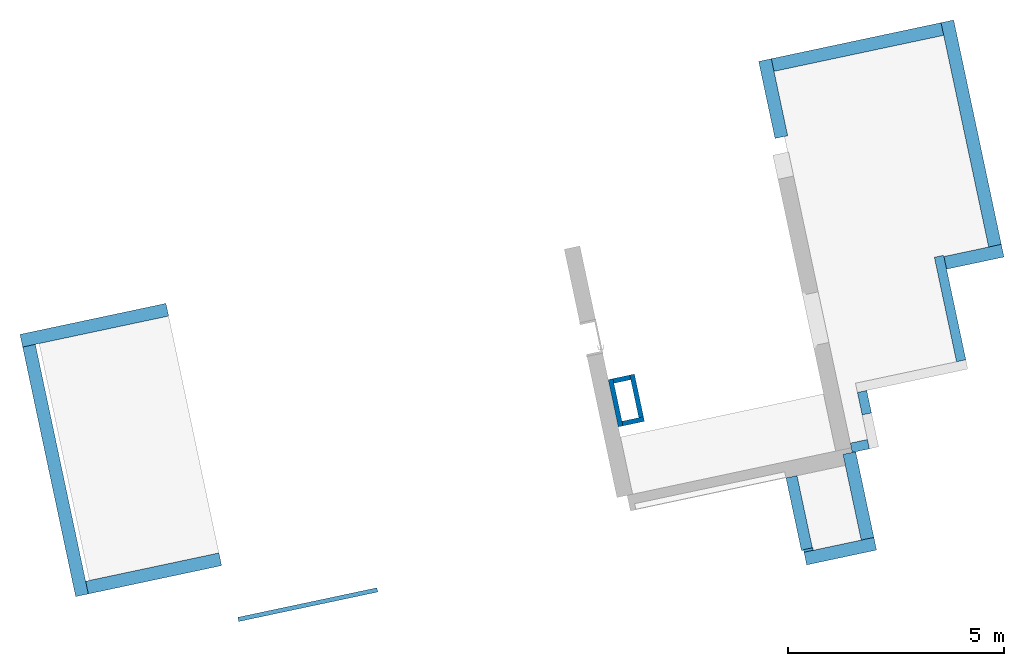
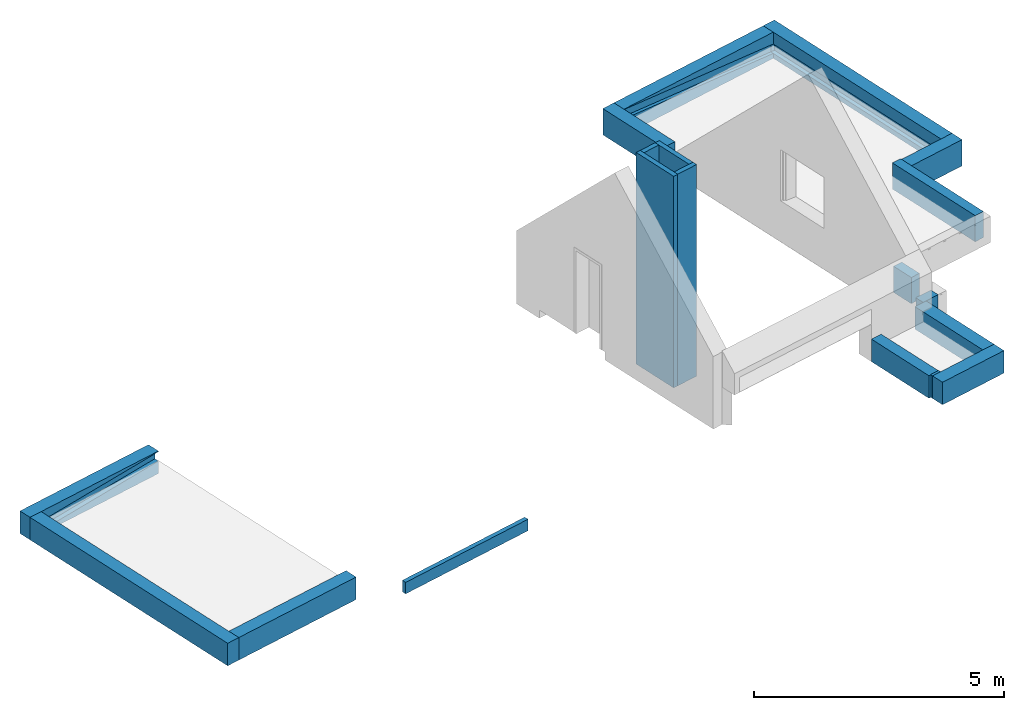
# One storey, part 1 of 5: 18 walls, 1 beam, 1 opening.
"""IFC2X3 building model written with IfcOpenShell, lengths in centimetres."""

import ifcopenshell
import ifcopenshell.guid

model = None  # the IFC model being written
_history = None  # IfcOwnerHistory: only IFC2X3 demands one
_inside = {}  # id of a spatial element -> (the spatial element, [elements in it])
_under = {}  # id of a project, library or spatial element -> (it, [spatial elements below it])
_declared = {}  # id of a project -> (the project, [libraries it declares])
_typed = {}  # id of a type object -> (the type object, [elements of that type])
_made_of = {}  # id of a material, layer set ... -> (it, [elements and type objects made of it])


def new_model(schema):
    """Start an empty IFC model of exactly this schema.

    Asked for "IFC4X3", IfcOpenShell would pick the latest addendum, in which some entities
    have other attributes; the version numbers below select the first issue.
    IFC2X3 requires an IfcOwnerHistory on every rooted entity: one is made here for all.
    """
    global model, _history
    if schema == "IFC4X3":
        model = ifcopenshell.file(schema_version=(4, 3, 0, 0))
    else:
        model = ifcopenshell.file(schema=schema)
    _inside.clear()
    _under.clear()
    _declared.clear()
    _typed.clear()
    _made_of.clear()
    _history = None
    if model.schema == "IFC2X3":
        org = make("IfcOrganization", Name="unknown")
        user = make(
            "IfcPersonAndOrganization",
            ThePerson=make("IfcPerson", FamilyName="unknown"),
            TheOrganization=org,
        )
        app = make(
            "IfcApplication",
            ApplicationDeveloper=org,
            Version="unknown",
            ApplicationFullName="unknown",
            ApplicationIdentifier="unknown",
        )
        _history = make(
            "IfcOwnerHistory",
            OwningUser=user,
            OwningApplication=app,
            ChangeAction="ADDED",
            CreationDate=0,
        )
    return model


def make(cls, **values):
    """One entity of the class cls with the attributes given. An attribute that is None is left unset."""
    return model.create_entity(
        cls, **{name: value for name, value in values.items() if value is not None}
    )


def entity(cls, *values):
    """Any entity or typed value of the class cls, its attributes in the order of the schema. None: left unset."""
    e = model.create_entity(cls)
    for i, value in enumerate(values):
        if value is not None:
            e[i] = value
    return e


def rooted(cls, **values):
    """An entity with a GlobalId (a new one), such as an element, a storey or a relation."""
    return make(cls, GlobalId=ifcopenshell.guid.new(), OwnerHistory=_history, **values)


def si_unit(unit_type, name, prefix=None):
    """IfcSIUnit, for example si_unit("LENGTHUNIT", "METRE", prefix="MILLI")."""
    return make("IfcSIUnit", UnitType=unit_type, Prefix=prefix, Name=name)


def converted_unit(unit_type, name, factor, base, dimensions=None, offset=None):
    """IfcConversionBasedUnit, such as the inch: factor (a typed value) times the base unit."""
    return make(
        "IfcConversionBasedUnit"
        if offset is None
        else "IfcConversionBasedUnitWithOffset",
        ConversionOffset=offset,
        Dimensions=None
        if dimensions is None
        else entity("IfcDimensionalExponents", *dimensions),
        UnitType=unit_type,
        Name=name,
        ConversionFactor=make(
            "IfcMeasureWithUnit", ValueComponent=factor, UnitComponent=base
        ),
    )


def derived_unit(unit_type, elements):
    """IfcDerivedUnit: a product of units, each with its exponent."""
    return make(
        "IfcDerivedUnit",
        Elements=[
            make("IfcDerivedUnitElement", Unit=unit, Exponent=power)
            for unit, power in elements
        ],
        UnitType=unit_type,
    )


def assignment(units):
    """IfcUnitAssignment: the units of a project."""
    return None if units is None else make("IfcUnitAssignment", Units=units)


def point(xyz):
    """IfcCartesianPoint."""
    return None if xyz is None else make("IfcCartesianPoint", Coordinates=xyz)


def direction(xyz):
    """IfcDirection."""
    return None if xyz is None else make("IfcDirection", DirectionRatios=xyz)


def frame(location, z_axis=None, x_axis=None):
    """IfcAxis2Placement3D, a coordinate frame: its origin and axes. An axis left out is left unset."""
    return make(
        "IfcAxis2Placement3D",
        Location=point(location),
        Axis=direction(z_axis),
        RefDirection=direction(x_axis),
    )


def frame_2d(location, x_axis=None):
    """IfcAxis2Placement2D, a coordinate frame in the plane: its origin and x axis."""
    return make(
        "IfcAxis2Placement2D", Location=point(location), RefDirection=direction(x_axis)
    )


def origin():
    """The frame at (0, 0, 0) with its axes left unset."""
    return frame((0.0, 0.0, 0.0))


def place(relative_to, where):
    """IfcLocalPlacement: puts the frame where relative to a parent placement (None: the world)."""
    return make(
        "IfcLocalPlacement", PlacementRelTo=relative_to, RelativePlacement=where
    )


def context(
    kind, dimensions, precision=None, world=None, true_north=None, identifier=None
):
    """IfcGeometricRepresentationContext, for example the 3D "Model" context."""
    return make(
        "IfcGeometricRepresentationContext",
        ContextIdentifier=identifier,
        ContextType=kind,
        CoordinateSpaceDimension=dimensions,
        Precision=precision,
        WorldCoordinateSystem=world,
        TrueNorth=true_north,
    )


def subcontext(parent, identifier, kind, view, scale=None):
    """IfcGeometricRepresentationSubContext, for example "Body" below "Model"."""
    return make(
        "IfcGeometricRepresentationSubContext",
        ContextIdentifier=identifier,
        ContextType=kind,
        ParentContext=parent,
        TargetScale=scale,
        TargetView=view,
    )


def project(units=None, contexts=None):
    """IfcProject with its units and contexts."""
    return rooted(
        "IfcProject",
        Name="project",
        RepresentationContexts=contexts,
        UnitsInContext=assignment(units),
    )


def spatial(cls, under=None, at=None, **own):
    """A site, building, storey or space (cls), placed at a placement, below another one or the project."""
    s = rooted(cls, ObjectPlacement=at, **own)
    if under is not None:
        _under.setdefault(under.id(), (under, []))[1].append(s)
    return s


def polyline(points):
    """IfcPolyline through the points."""
    return make("IfcPolyline", Points=[point(p) for p in points])


def profile(cls, at=None, kind="AREA", **sizes):
    """A parametric profile (cls). Its sizes go by their IFC names, for example OverallWidth=200.0."""
    return make(cls, ProfileType=kind, Position=at, **sizes)


def rectangle(**sizes):
    """IfcRectangleProfileDef."""
    return profile("IfcRectangleProfileDef", **sizes)


def extrude(swept, where, along, depth):
    """IfcExtrudedAreaSolid: the profile swept, set in the frame where, extruded along a direction by depth."""
    return make(
        "IfcExtrudedAreaSolid",
        SweptArea=swept,
        Position=where,
        ExtrudedDirection=direction(along),
        Depth=depth,
    )


def clip(a, b, op="DIFFERENCE"):
    """IfcBooleanClippingResult: the solid a cut by the half space b."""
    return make(
        "IfcBooleanClippingResult", Operator=op, FirstOperand=a, SecondOperand=b
    )


def bounded_halfspace(plane, agree, where, boundary):
    """IfcPolygonalBoundedHalfSpace: a half space limited to a polygon's prism."""
    return make(
        "IfcPolygonalBoundedHalfSpace",
        BaseSurface=make("IfcPlane", Position=plane),
        AgreementFlag=agree,
        Position=where,
        PolygonalBoundary=boundary,
    )


def faces_of(points, faces, orient=None, outer=None):
    """IfcFace entities. A face is a list of loops; a loop is a list of indices into points, from 0.

    orient and outer hold one flag for each loop. By default every Orientation is true, the
    first loop of a face is its IfcFaceOuterBound and the others are IfcFaceBound.
    """
    made = []
    for i, loops in enumerate(faces):
        bounds = []
        for j, loop in enumerate(loops):
            is_outer = j == 0 if outer is None else outer[i][j]
            bounds.append(
                make(
                    "IfcFaceOuterBound" if is_outer else "IfcFaceBound",
                    Bound=make("IfcPolyLoop", Polygon=[points[k] for k in loop]),
                    Orientation=True if orient is None else orient[i][j],
                )
            )
        made.append(make("IfcFace", Bounds=bounds))
    return made


def faceted_brep(points, faces, orient=None, outer=None, voids=None):
    """IfcFacetedBrep: a solid bounded by flat faces; with voids (closed shells), ...WithVoids."""
    shared = [point(p) for p in points]
    hull = make("IfcClosedShell", CfsFaces=faces_of(shared, faces, orient, outer))
    if voids is None:
        return make("IfcFacetedBrep", Outer=hull)
    return make(
        "IfcFacetedBrepWithVoids",
        Outer=hull,
        Voids=[
            make(cls, CfsFaces=faces_of(shared, fs, o, b)) for cls, fs, o, b in voids
        ],
    )


def shape(context_of_items, identifier, shape_type, items):
    """IfcShapeRepresentation: the items that make up one representation, for example the "Body"."""
    return make(
        "IfcShapeRepresentation",
        ContextOfItems=context_of_items,
        RepresentationIdentifier=identifier,
        RepresentationType=shape_type,
        Items=items,
    )


def material(Name=None, Category=None):
    """IfcMaterial."""
    return make("IfcMaterial", Name=Name, Category=Category)


def layer(
    of_material, thickness, ventilated=None, Name=None, Category=None, Priority=None
):
    """IfcMaterialLayer: one layer of a wall or slab, of a material (None: an air gap)."""
    return make(
        "IfcMaterialLayer",
        Material=of_material,
        LayerThickness=thickness,
        IsVentilated=ventilated,
        Name=Name,
        Category=Category,
        Priority=Priority,
    )


def layer_set(layers, Name=None):
    """IfcMaterialLayerSet."""
    return make("IfcMaterialLayerSet", MaterialLayers=layers, LayerSetName=Name)


def layer_usage(for_layer_set, set_direction, sense, offset, extent=None):
    """IfcMaterialLayerSetUsage: how a layer set lies in its element."""
    return make(
        "IfcMaterialLayerSetUsage",
        ForLayerSet=for_layer_set,
        LayerSetDirection=set_direction,
        DirectionSense=sense,
        OffsetFromReferenceLine=offset,
        ReferenceExtent=extent,
    )


def made_of(thing, what):
    """Note that an element or type object is made of a material, layer set ...; save() writes the relation."""
    if what is not None:
        _made_of.setdefault(what.id(), (what, []))[1].append(thing)
    return thing


def type_object(cls, material=None, **own):
    """A type object (cls), such as IfcWallType, which elements share."""
    return made_of(rooted(cls, **own), material)


def element(
    cls,
    number,
    at=None,
    inside=None,
    cuts=None,
    type_object=None,
    material=None,
    context=None,
    identifier="Body",
    shape_type=None,
    held_by="IfcProductDefinitionShape",
    body=None,
    shapes=None,
    **own,
):
    """One element of the class cls, such as IfcWall. Its Tag is "e" and its number.

    at: its placement. inside: the storey or other place that contains it. cuts: it is an
    opening in that element (IfcRelVoidsElement). A single representation is given by context,
    identifier, shape_type and body (its items); several are given by shapes. held_by: the class
    of the entity that holds the representations. save() writes the other relations.
    """
    e = rooted(cls, Tag="e%d" % number, ObjectPlacement=at, **own)
    if body is not None:
        shapes = [shape(context, identifier, shape_type, body)]
    if shapes is not None:
        e.Representation = make(held_by, Representations=shapes)
    if inside is not None:
        _inside.setdefault(inside.id(), (inside, []))[1].append(e)
    if cuts is not None:
        rooted(
            "IfcRelVoidsElement", RelatingBuildingElement=cuts, RelatedOpeningElement=e
        )
    if type_object is not None:
        _typed.setdefault(type_object.id(), (type_object, []))[1].append(e)
    return made_of(e, material)


def aggregate(whole, parts):
    """IfcRelAggregates: a whole, such as a stair, and the parts it consists of."""
    return rooted("IfcRelAggregates", RelatingObject=whole, RelatedObjects=parts)


def save(model, path):
    """Write the relations noted so far, then the file.

    IfcRelAggregates (storeys below a building ...), IfcRelContainedInSpatialStructure (elements
    in a storey), IfcRelDefinesByType, IfcRelAssociatesMaterial and IfcRelDeclares: one each for
    every whole, place, type object, material and project.
    """
    for whole, parts in _under.values():
        aggregate(whole, parts)
    for where, things in _inside.values():
        rooted(
            "IfcRelContainedInSpatialStructure",
            RelatedElements=things,
            RelatingStructure=where,
        )
    for kind, things in _typed.values():
        rooted("IfcRelDefinesByType", RelatedObjects=things, RelatingType=kind)
    for what, things in _made_of.values():
        rooted("IfcRelAssociatesMaterial", RelatedObjects=things, RelatingMaterial=what)
    for by, libraries in _declared.values():
        rooted("IfcRelDeclares", RelatingContext=by, RelatedDefinitions=libraries)
    model.write(path)


model = new_model("IFC2X3")

# Units and contexts
model_context = context("Model", 3, precision=0.001, world=origin(), true_north=direction((6.12303176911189e-17, 1.0)))
body_context = subcontext(model_context, "Body", "Model", "MODEL_VIEW")
ifc_project = project(units=[si_unit("LENGTHUNIT", "METRE", prefix="CENTI"), si_unit("AREAUNIT", "SQUARE_METRE"), si_unit("VOLUMEUNIT", "CUBIC_METRE"), converted_unit("PLANEANGLEUNIT", "DEGREE", entity("IfcRatioMeasure", 0.0174532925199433), si_unit("PLANEANGLEUNIT", "RADIAN"), dimensions=[0, 0, 0, 0, 0, 0, 0]), si_unit("MASSUNIT", "GRAM", prefix="KILO"), derived_unit("MASSDENSITYUNIT", [(si_unit("MASSUNIT", "GRAM", prefix="KILO"), 1), (si_unit("LENGTHUNIT", "METRE"), -3)]), derived_unit("IONCONCENTRATIONUNIT", [(si_unit("MASSUNIT", "GRAM", prefix="KILO"), 1), (si_unit("LENGTHUNIT", "METRE"), -3)]), derived_unit("MOMENTOFINERTIAUNIT", [(si_unit("LENGTHUNIT", "METRE"), 4)]), si_unit("TIMEUNIT", "SECOND"), si_unit("FREQUENCYUNIT", "HERTZ"), si_unit("THERMODYNAMICTEMPERATUREUNIT", "DEGREE_CELSIUS"), derived_unit("THERMALTRANSMITTANCEUNIT", [(si_unit("MASSUNIT", "GRAM", prefix="KILO"), 1), (si_unit("THERMODYNAMICTEMPERATUREUNIT", "KELVIN"), -1), (si_unit("TIMEUNIT", "SECOND"), -3)]), derived_unit("THERMALCONDUCTANCEUNIT", [(si_unit("MASSUNIT", "GRAM", prefix="KILO"), 1), (si_unit("THERMODYNAMICTEMPERATUREUNIT", "KELVIN"), -1), (si_unit("TIMEUNIT", "SECOND"), -3), (si_unit("LENGTHUNIT", "METRE"), 1)]), derived_unit("VOLUMETRICFLOWRATEUNIT", [(si_unit("LENGTHUNIT", "METRE"), 3), (si_unit("TIMEUNIT", "SECOND"), -1)]), derived_unit("MASSFLOWRATEUNIT", [(si_unit("MASSUNIT", "GRAM", prefix="KILO"), 1), (si_unit("TIMEUNIT", "SECOND"), -1)]), derived_unit("ROTATIONALFREQUENCYUNIT", [(si_unit("TIMEUNIT", "SECOND"), -1)]), si_unit("ELECTRICCURRENTUNIT", "AMPERE"), si_unit("ELECTRICVOLTAGEUNIT", "VOLT"), si_unit("POWERUNIT", "WATT"), si_unit("FORCEUNIT", "NEWTON", prefix="KILO"), si_unit("ILLUMINANCEUNIT", "LUX"), si_unit("LUMINOUSFLUXUNIT", "LUMEN"), si_unit("LUMINOUSINTENSITYUNIT", "CANDELA"), derived_unit("USERDEFINED", [(si_unit("MASSUNIT", "GRAM", prefix="KILO"), -1), (si_unit("LENGTHUNIT", "METRE"), -2), (si_unit("TIMEUNIT", "SECOND"), 3), (si_unit("LUMINOUSFLUXUNIT", "LUMEN"), 1)]), derived_unit("USERDEFINED", [(si_unit("MASSUNIT", "GRAM", prefix="KILO"), 1), (si_unit("TIMEUNIT", "SECOND"), -3), (si_unit("LENGTHUNIT", "METRE"), 3), (si_unit("ELECTRICCURRENTUNIT", "AMPERE"), -2)]), derived_unit("SOUNDPOWERUNIT", [(si_unit("MASSUNIT", "GRAM", prefix="KILO"), 1), (si_unit("TIMEUNIT", "SECOND"), -3), (si_unit("LENGTHUNIT", "METRE"), 2)]), derived_unit("SOUNDPRESSUREUNIT", [(si_unit("MASSUNIT", "GRAM", prefix="KILO"), 1), (si_unit("LENGTHUNIT", "METRE"), -1), (si_unit("TIMEUNIT", "SECOND"), -2)]), derived_unit("LINEARVELOCITYUNIT", [(si_unit("LENGTHUNIT", "METRE"), 1), (si_unit("TIMEUNIT", "SECOND"), -1)]), si_unit("PRESSUREUNIT", "PASCAL"), derived_unit("USERDEFINED", [(si_unit("MASSUNIT", "GRAM", prefix="KILO"), 1), (si_unit("LENGTHUNIT", "METRE"), -2), (si_unit("TIMEUNIT", "SECOND"), -2)]), derived_unit("LINEARFORCEUNIT", [(si_unit("MASSUNIT", "GRAM", prefix="KILO"), 1), (si_unit("TIMEUNIT", "SECOND"), -2)]), derived_unit("PLANARFORCEUNIT", [(si_unit("MASSUNIT", "GRAM", prefix="KILO"), 1), (si_unit("LENGTHUNIT", "METRE"), -1), (si_unit("TIMEUNIT", "SECOND"), -2)]), derived_unit("SPECIFICHEATCAPACITYUNIT", [(si_unit("THERMODYNAMICTEMPERATUREUNIT", "KELVIN"), -1), (si_unit("LENGTHUNIT", "METRE"), 2), (si_unit("TIMEUNIT", "SECOND"), -2)]), derived_unit("HEATINGVALUEUNIT", [(si_unit("LENGTHUNIT", "METRE"), 2), (si_unit("TIMEUNIT", "SECOND"), -2)]), derived_unit("VAPORPERMEABILITYUNIT", [(si_unit("LENGTHUNIT", "METRE"), -1), (si_unit("TIMEUNIT", "SECOND"), 1)]), derived_unit("DYNAMICVISCOSITYUNIT", [(si_unit("MASSUNIT", "GRAM", prefix="KILO"), 1), (si_unit("TIMEUNIT", "SECOND"), -1), (si_unit("LENGTHUNIT", "METRE"), -1)]), derived_unit("THERMALEXPANSIONCOEFFICIENTUNIT", [(si_unit("THERMODYNAMICTEMPERATUREUNIT", "KELVIN"), -1)]), derived_unit("MODULUSOFELASTICITYUNIT", [(si_unit("MASSUNIT", "GRAM", prefix="KILO"), 1), (si_unit("LENGTHUNIT", "METRE"), -1), (si_unit("TIMEUNIT", "SECOND"), -2)]), derived_unit("ISOTHERMALMOISTURECAPACITYUNIT", [(si_unit("LENGTHUNIT", "METRE"), 3), (si_unit("MASSUNIT", "GRAM", prefix="KILO"), -1)]), derived_unit("MOISTUREDIFFUSIVITYUNIT", [(si_unit("TIMEUNIT", "SECOND"), -1), (si_unit("LENGTHUNIT", "METRE"), 2)])], contexts=[model_context])

# Site, building, storey
site_placement = place(None, frame((14083.8920177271, -6853.25409548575, 6900.0), z_axis=(0.0, 0.0, 1.0), x_axis=(0.978188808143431, 0.207717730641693, 0.0)))
site = spatial("IfcSite", under=ifc_project, at=site_placement, Name="Surface", CompositionType="ELEMENT")
building_placement = place(site_placement, origin())
building = spatial("IfcBuilding", under=site, at=building_placement, CompositionType="ELEMENT")
storey_placement = place(building_placement, frame((0.0, 0.0, 269.0)))
storey = spatial("IfcBuildingStorey", under=building, at=storey_placement, Name="***R+1 (SD)***", CompositionType="ELEMENT", Elevation=269.0)

# Beam
ifc_material_1 = material(Name="Bois - Bois de construction de dimensions courantes")
beam_type = type_object("IfcBeamType", Name="Poutre - Bois de construction de dimensions courantes:100x280", PredefinedType="NOTDEFINED")
beam_placement = place(storey_placement, frame((-7443.95514329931, 14707.6724778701, 106.500000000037), z_axis=(0.0, 0.0, 1.0), x_axis=(-1.0, 0.0, 0.0)))
element("IfcBeam", 1, at=beam_placement, inside=storey, type_object=beam_type, material=ifc_material_1, Name="Poutre - Bois de construction de dimensions courantes:100x280", ObjectType="Poutre - Bois de construction de dimensions courantes:100x280", context=body_context, shape_type="SweptSolid", body=[
    extrude(rectangle(XDim=28.0, YDim=10.0000000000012, at=frame_2d((5.41788836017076e-14, 0.0), x_axis=(1.0, 0.0))), frame((-48.3578643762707, 0.0, -14.0), z_axis=(1.0, 0.0, 0.0), x_axis=(0.0, 0.0, -1.0)), (0.0, 0.0, 1.0), 329.557864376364),
])

# Walls
ifc_material_2 = material(Name="__ ENDUIT_Blanc")
ifc_layer_1 = layer(ifc_material_2, 1.0)
ifc_material_3 = material(Name="__ BRIQUE______________________TEST")
ifc_layer_2 = layer(ifc_material_3, 10.0)
ifc_layer_set_1 = layer_set([ifc_layer_1, ifc_layer_2], Name="Mur de base:*BRIQUE 10 + Enduit")
ifc_layer_usage_1 = layer_usage(ifc_layer_set_1, "AXIS2", "POSITIVE", -5.5)
wall_type_1 = type_object("IfcWallType", Name="Mur de base:*BRIQUE 10 + Enduit", PredefinedType="STANDARD", material=ifc_layer_set_1)
wall_1_placement = place(storey_placement, frame((-6765.4551432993, 15073.2093470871, 0.0), z_axis=(0.0, 0.0, 1.0), x_axis=(0.0, -1.0, 0.0)))
element("IfcWallStandardCase", 2, at=wall_1_placement, inside=storey, type_object=wall_type_1, material=ifc_layer_usage_1, Name="Mur de base:*BRIQUE 10 + Enduit", ObjectType="Mur de base:*BRIQUE 10 + Enduit", context=body_context, shape_type="SweptSolid", body=[
    extrude(rectangle(XDim=112.036869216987, YDim=10.9999999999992, at=frame_2d((56.0184346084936, 0.0), x_axis=(-1.0, 0.0))), origin(), (0.0, 0.0, 1.0), 517.000000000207),
])
wall_2_placement = place(storey_placement, frame((-6759.9551432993, 14966.6724778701, 0.0)))
element("IfcWallStandardCase", 3, at=wall_2_placement, inside=storey, type_object=wall_type_1, material=ifc_layer_usage_1, Name="Mur de base:*BRIQUE 10 + Enduit", ObjectType="Mur de base:*BRIQUE 10 + Enduit", context=body_context, shape_type="SweptSolid", body=[
    extrude(rectangle(XDim=50.9999999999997, YDim=11.000000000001, at=frame_2d((25.4999999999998, 0.0), x_axis=(-1.0, 0.0))), origin(), (0.0, 0.0, 1.0), 517.000000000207),
])
wall_3_placement = place(storey_placement, frame((-6714.4551432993, 14972.1724778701, 0.0), z_axis=(0.0, 0.0, 1.0), x_axis=(0.0, 1.0, 0.0)))
element("IfcWallStandardCase", 4, at=wall_3_placement, inside=storey, type_object=wall_type_1, material=ifc_layer_usage_1, Name="Mur de base:*BRIQUE 10 + Enduit", ObjectType="Mur de base:*BRIQUE 10 + Enduit", context=body_context, shape_type="SweptSolid", body=[
    extrude(rectangle(XDim=101.036869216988, YDim=10.9999999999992, at=frame_2d((50.5184346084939, 0.0), x_axis=(-1.0, 0.0))), origin(), (0.0, 0.0, 1.0), 517.000000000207),
])
wall_4_placement = place(storey_placement, frame((-6719.9551432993, 15067.7093470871, 0.0), z_axis=(0.0, 0.0, 1.0), x_axis=(-1.0, 0.0, 0.0)))
element("IfcWallStandardCase", 5, at=wall_4_placement, inside=storey, type_object=wall_type_1, material=ifc_layer_usage_1, Name="Mur de base:*BRIQUE 10 + Enduit", ObjectType="Mur de base:*BRIQUE 10 + Enduit", context=body_context, shape_type="SweptSolid", body=[
    extrude(rectangle(XDim=39.9999999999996, YDim=11.000000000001, at=frame_2d((19.9999999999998, 0.0), x_axis=(-1.0, 0.0))), origin(), (0.0, 0.0, 1.0), 517.000000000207),
])
ifc_material_4 = material(Name="__ PIERRE______________________TEST")
ifc_layer_3 = layer(ifc_material_4, 10.0)
ifc_material_5 = material(Name="Béton, précoulé")
ifc_layer_4 = layer(ifc_material_5, 20.0)
ifc_layer_set_2 = layer_set([ifc_layer_3, ifc_layer_4], Name="Mur de base:*BETON 22 (20 + EXT 2) (parement) + couronnement zinc")
wall_type_2 = type_object("IfcWallType", Name="Mur de base:*BETON 22 (20 + EXT 2) (parement) + couronnement zinc", PredefinedType="STANDARD", material=ifc_layer_set_2)
wall_5_placement = place(storey_placement, frame((-7736.9551432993, 15443.9391445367, 0.0), z_axis=(0.0, 0.0, 1.0), x_axis=(-1.0, 0.0, 0.0)))
element("IfcWall", 6, at=wall_5_placement, inside=storey, type_object=wall_type_2, Name="Mur de base:*BETON 22 (20 + EXT 2) (parement) + couronnement zinc", ObjectType="Mur de base:*BETON 22 (20 + EXT 2) (parement) + couronnement zinc", context=body_context, shape_type="Brep", body=[
    faceted_brep([(0.0, -15.0, 0.0), (345.800000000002, -15.0, 0.0), (345.800000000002, -15.0, 55.0), (0.0, -15.0, 55.0), (345.800000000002, 15.0, 0.0), (315.800000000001, 15.0, 0.0), (0.0, 15.0, 0.0), (0.0, 15.0, 30.4113676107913), (315.800000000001, 15.0, 8.32848039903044), (318.0, 15.0, 8.17464141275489), (318.0, 15.0, 31.2308050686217), (315.800000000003, 15.0, 31.3846440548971), (0.0, 15.0, 53.4675312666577), (0.0, 15.0, 55.0), (315.800000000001, 15.0, 55.0), (345.800000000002, 15.0, 55.0), (0.0, 4.0, 30.411367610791), (318.0, 4.0, 8.17464141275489), (318.0, 4.0, 31.2308050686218), (0.0, 4.0, 53.4675312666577)], [[[0, 1, 2, 3]], [[4, 5, 6, 7, 8, 9, 10, 11, 12, 13, 14, 15]], [[1, 0, 6, 5, 4]], [[3, 2, 15, 14, 13]], [[16, 17, 9, 8, 7]], [[18, 19, 12, 11, 10]], [[17, 16, 19, 18]], [[6, 0, 3, 13, 12, 19, 16, 7]], [[2, 1, 4, 15]], [[17, 18, 10, 9]]]),
])
wall_6_placement = place(storey_placement, frame((-8067.7551432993, 15428.9391445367, 0.0), z_axis=(0.0, 0.0, 1.0), x_axis=(0.0, -1.0, 0.0)))
element("IfcWall", 7, at=wall_6_placement, inside=storey, type_object=wall_type_2, Name="Mur de base:*BETON 22 (20 + EXT 2) (parement) + couronnement zinc", ObjectType="Mur de base:*BETON 22 (20 + EXT 2) (parement) + couronnement zinc", context=body_context, shape_type="Brep", body=[
    faceted_brep([(0.0, -15.0, 0.0), (591.266666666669, -15.0, 0.0), (591.266666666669, -15.0, 55.0), (0.0, -15.0, 55.0), (591.266666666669, 15.0, 0.0), (561.266666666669, 15.0, 0.0), (0.0, 15.0, 0.0), (0.0, 15.0, 8.32848039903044), (561.266666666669, 15.0, 8.32848039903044), (572.266666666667, 15.0, 8.32848039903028), (572.266666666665, 15.0, 31.3846440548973), (561.266666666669, 15.0, 31.3846440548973), (0.0, 15.0, 31.3846440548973), (0.0, 15.0, 55.0), (561.266666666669, 15.0, 55.0), (591.266666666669, 15.0, 55.0), (572.266666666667, 12.800000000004, 8.17464141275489), (0.0, 12.800000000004, 8.17464141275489), (572.266666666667, 12.800000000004, 31.2308050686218), (0.0, 12.8000000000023, 31.2308050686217)], [[[0, 1, 2, 3]], [[4, 5, 6, 7, 8, 9, 10, 11, 12, 13, 14, 15]], [[1, 0, 6, 5, 4]], [[3, 2, 15, 14, 13]], [[16, 9, 8, 7, 17]], [[10, 18, 19, 12, 11]], [[18, 16, 17, 19]], [[0, 3, 13, 12, 19, 17, 7, 6]], [[16, 18, 10, 9]], [[2, 1, 4, 15]]]),
])
ifc_layer_usage_2 = layer_usage(ifc_layer_set_2, "AXIS2", "POSITIVE", -15.0)
wall_7_placement = place(storey_placement, frame((-8052.7551432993, 14852.6724778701, 0.0)))
element("IfcWallStandardCase", 8, at=wall_7_placement, inside=storey, type_object=wall_type_2, material=ifc_layer_usage_2, Name="Mur de base:*BETON 22 (20 + EXT 2) (parement) + couronnement zinc", ObjectType="Mur de base:*BETON 22 (20 + EXT 2) (parement) + couronnement zinc", context=body_context, shape_type="Clipping", body=[
    clip(extrude(rectangle(XDim=315.800000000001, YDim=30.0000000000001, at=frame_2d((157.9, 0.0), x_axis=(-1.0, 0.0))), origin(), (0.0, 0.0, 1.0), 55.0000000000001), bounded_halfspace(frame((315.800000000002, 4.0, 30.411367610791), z_axis=(0.0, -1.0, 0.0), x_axis=(1.0, 0.0, 0.0)), True, frame((315.800000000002, 4.0, 30.411367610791), z_axis=(0.0, -1.0, 0.0), x_axis=(1.0, 0.0, 0.0)), polyline([(0.0, 0.0), (0.0, 23.0561636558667), (-315.8, 0.973276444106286), (-315.8, -22.0828872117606), (0.0, 0.0)]))),
])
ifc_layer_usage_3 = layer_usage(ifc_layer_set_2, "AXIS2", "NEGATIVE", 15.0)
wall_8_placement = place(storey_placement, frame((-6259.81321908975, 14790.6673447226, 0.0), z_axis=(0.0, 0.0, 1.0), x_axis=(0.0, -1.0, 0.0)))
element("IfcWallStandardCase", 9, at=wall_8_placement, inside=storey, type_object=wall_type_2, material=ifc_layer_usage_3, Name="Mur de base:*BETON 22 (20 + EXT 2) (parement) + couronnement zinc", ObjectType="Mur de base:*BETON 22 (20 + EXT 2) (parement) + couronnement zinc", context=body_context, shape_type="SweptSolid", body=[
    extrude(rectangle(XDim=203.034892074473, YDim=30.0000000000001, at=frame_2d((101.517446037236, 0.0), x_axis=(-1.0, 0.0))), origin(), (0.0, 0.0, 1.0), 55.0000000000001),
])
wall_9_placement = place(storey_placement, frame((-6244.81321908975, 14572.6324526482, 0.0), z_axis=(0.0, 0.0, 1.0), x_axis=(-1.0, 0.0, 0.0)))
element("IfcWallStandardCase", 10, at=wall_9_placement, inside=storey, type_object=wall_type_2, material=ifc_layer_usage_3, Name="Mur de base:*BETON 22 (20 + EXT 2) (parement) + couronnement zinc", ObjectType="Mur de base:*BETON 22 (20 + EXT 2) (parement) + couronnement zinc", context=body_context, shape_type="SweptSolid", body=[
    extrude(rectangle(XDim=165.499999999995, YDim=30.0000000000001, at=frame_2d((82.7499999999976, 0.0), x_axis=(-1.0, 0.0))), origin(), (0.0, 0.0, 1.0), 55.0000000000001),
])

# Wall, opening
wall_10_placement = place(storey_placement, frame((-6261.81321908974, 15539.6324526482, -9.0), z_axis=(0.0, 0.0, 1.0), x_axis=(0.0, 1.0, 0.0)))
wall_10 = element("IfcWallStandardCase", 11, at=wall_10_placement, inside=storey, type_object=wall_type_2, material=ifc_layer_usage_3, Name="Mur de base:*BETON 22 (20 + EXT 2) (parement) + couronnement zinc", ObjectType="Mur de base:*BETON 22 (20 + EXT 2) (parement) + couronnement zinc", context=body_context, shape_type="SweptSolid", body=[
    extrude(rectangle(XDim=182.534892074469, YDim=30.0000000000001, at=frame_2d((91.2674460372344, 0.0), x_axis=(-1.0, 0.0))), origin(), (0.0, 0.0, 1.0), 64.0),
])
opening_placement = place(wall_10_placement, frame((-493.459974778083, 59.5000000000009, 121.141193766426)))
element("IfcOpeningElement", 12, at=opening_placement, cuts=wall_10, Name="Mur de base:*BETON 22 (20 + EXT 2) (parement) + couronnement zinc", ObjectType="Opening", context=body_context, shape_type="Brep", body=[
    faceted_brep([(125.0, -39.4999999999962, 7.85880623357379), (125.0, -41.500000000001, 7.85880623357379), (125.0, -41.500000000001, 127.858806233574), (125.0, -100.0, 127.858806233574), (125.0, -100.0, 0.0), (125.0, -39.4999999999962, 6.35880623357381), (5.0, 0.0, 7.85880623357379), (5.0, -31.5000000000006, 7.85880623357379), (5.0, -31.5000000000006, 127.858806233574), (5.0, 0.0, 127.858806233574), (125.0, 0.0, 7.85880623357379), (125.0, -31.5000000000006, 7.85880623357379), (130.0, -31.5000000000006, 7.85880623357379), (130.0, -36.5000000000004, 7.85880623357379), (126.0, -36.5000000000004, 7.85880623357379), (126.0, -41.500000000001, 7.85880623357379), (5.0, -39.4999999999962, 7.85880623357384), (5.0, -41.500000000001, 7.85880623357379), (4.0, -41.500000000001, 7.85880623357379), (4.0, -36.5000000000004, 7.85880623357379), (0.0, -36.5000000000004, 7.85880623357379), (0.0, -31.5000000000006, 7.85880623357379), (125.0, 0.0, 127.858806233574), (5.0, -41.500000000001, 127.858806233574), (5.0, -100.0, 127.858806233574), (5.0, -100.0, 0.0), (5.0, -39.4999999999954, 6.35880623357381), (130.0, -31.5000000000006, 132.858806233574), (130.0, -36.5000000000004, 132.858806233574), (0.0, -36.5000000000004, 132.858806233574), (4.0, -36.5000000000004, 128.858806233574), (126.0, -36.5000000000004, 128.858806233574), (126.0, -41.500000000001, 128.858806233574), (4.0, -41.500000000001, 128.858806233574), (125.0, -31.5000000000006, 127.858806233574), (0.0, -31.5000000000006, 132.858806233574)], [[[0, 1, 2, 3, 4, 5]], [[6, 7, 8, 9]], [[10, 11, 12, 13, 14, 15, 1, 0, 16, 17, 18, 19, 20, 21, 7, 6]], [[10, 6, 9, 22]], [[3, 2, 23, 24]], [[3, 24, 25, 4]], [[4, 25, 26, 5]], [[5, 26, 16, 0]], [[12, 27, 28, 13]], [[13, 28, 29, 20, 19, 30, 31, 14]], [[14, 31, 32, 15]], [[15, 32, 33, 18, 17, 23, 2, 1]], [[11, 34, 8, 7, 21, 35, 27, 12]], [[27, 35, 29, 28]], [[30, 33, 32, 31]], [[29, 35, 21, 20]], [[19, 18, 33, 30]], [[9, 8, 34, 22]], [[24, 23, 17, 16, 26, 25]], [[22, 34, 11, 10]]]),
])

# Walls
wall_11_placement = place(storey_placement, frame((-6246.81321908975, 15707.1673447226, -9.0)))
element("IfcWallStandardCase", 13, at=wall_11_placement, inside=storey, type_object=wall_type_2, material=ifc_layer_usage_3, Name="Mur de base:*BETON 22 (20 + EXT 2) (parement) + couronnement zinc", ObjectType="Mur de base:*BETON 22 (20 + EXT 2) (parement) + couronnement zinc", context=body_context, shape_type="Clipping", body=[
    clip(extrude(rectangle(XDim=402.000000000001, YDim=30.0000000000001, at=frame_2d((201.000000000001, 0.0), x_axis=(-1.0, 0.0))), origin(), (0.0, 0.0, 1.0), 64.0), bounded_halfspace(frame((0.0, -7.50000000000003, 40.0568566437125), z_axis=(0.0, 1.0, 0.0), x_axis=(-1.0, 0.0, 0.0)), True, frame((0.0, -7.50000000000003, 40.0568566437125), z_axis=(0.0, 1.0, 0.0), x_axis=(-1.0, 0.0, 0.0)), polyline([(0.0, 0.0), (0.0, 23.0561636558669), (-402.0, -5.05441474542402), (-402.0, -28.110578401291), (0.0, 0.0)]))),
])
wall_12_placement = place(storey_placement, frame((-5829.81321908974, 15722.1673447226, -9.0), z_axis=(0.0, 0.0, 1.0), x_axis=(0.0, -1.0, 0.0)))
element("IfcWall", 14, at=wall_12_placement, inside=storey, type_object=wall_type_2, Name="Mur de base:*BETON 22 (20 + EXT 2) (parement) + couronnement zinc", ObjectType="Mur de base:*BETON 22 (20 + EXT 2) (parement) + couronnement zinc", context=body_context, shape_type="Brep", body=[
    faceted_brep([(0.0, -15.0, 0.0), (30.0, -15.0, 0.0), (531.499999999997, -15.0, 0.0), (531.499999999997, -15.0, 11.9462782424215), (30.0, -15.0, 11.9462782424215), (22.5000000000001, -15.0, 11.9462782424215), (22.5000000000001, -15.0, 35.0024418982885), (30.0, -15.0, 35.0024418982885), (531.499999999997, -15.0, 35.0024418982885), (531.499999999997, -15.0, 64.0), (30.0, -15.0, 64.0), (0.0, -15.0, 64.0), (531.499999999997, 15.0, 0.0), (0.0, 15.0, 0.0), (0.0, 15.0, 64.0), (531.499999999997, 15.0, 64.0), (531.499999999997, -5.0, 34.3031737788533), (531.499999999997, -5.0, 11.2470101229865), (22.5000000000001, -5.0, 11.2470101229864), (22.5000000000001, -5.0, 34.3031737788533)], [[[0, 1, 2, 3, 4, 5, 6, 7, 8, 9, 10, 11]], [[12, 13, 14, 15]], [[2, 1, 0, 13, 12]], [[11, 10, 9, 15, 14]], [[0, 11, 14, 13]], [[2, 12, 15, 9, 8, 16, 17, 3]], [[18, 5, 4, 3, 17]], [[19, 16, 8, 7, 6]], [[19, 18, 17, 16]], [[18, 19, 6, 5]]]),
])
wall_13_placement = place(storey_placement, frame((-5814.81321908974, 15175.6673447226, -9.0), z_axis=(0.0, 0.0, 1.0), x_axis=(-1.0, 0.0, 0.0)))
element("IfcWallStandardCase", 15, at=wall_13_placement, inside=storey, type_object=wall_type_2, material=ifc_layer_usage_3, Name="Mur de base:*BETON 22 (20 + EXT 2) (parement) + couronnement zinc", ObjectType="Mur de base:*BETON 22 (20 + EXT 2) (parement) + couronnement zinc", context=body_context, shape_type="SweptSolid", body=[
    extrude(rectangle(XDim=136.000000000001, YDim=30.0000000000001, at=frame_2d((68.0000000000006, 1.12798659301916e-13), x_axis=(-1.0, 0.0))), origin(), (0.0, 0.0, 1.0), 64.0),
])
ifc_layer_5 = layer(ifc_material_2, 2.0)
ifc_layer_6 = layer(ifc_material_2, 20.0)
ifc_layer_set_3 = layer_set([ifc_layer_5, ifc_layer_6], Name="Mur de base:*BETON 22 (20 + EXT 2) (enduit) + couronnement zinc")
ifc_layer_usage_4 = layer_usage(ifc_layer_set_3, "AXIS2", "NEGATIVE", 11.0)
wall_type_3 = type_object("IfcWallType", Name="Mur de base:*BETON 22 (20 + EXT 2) (enduit) + couronnement zinc", PredefinedType="STANDARD", material=ifc_layer_set_3)
wall_14_placement = place(storey_placement, frame((-6399.31321908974, 14587.6324526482, 0.0), z_axis=(0.0, 0.0, 1.0), x_axis=(0.0, 1.0, 0.0)))
element("IfcWallStandardCase", 16, at=wall_14_placement, inside=storey, type_object=wall_type_3, material=ifc_layer_usage_4, Name="Mur de base:*BETON 22 (20 + EXT 2) (enduit) + couronnement zinc", ObjectType="Mur de base:*BETON 22 (20 + EXT 2) (enduit) + couronnement zinc", context=body_context, shape_type="SweptSolid", body=[
    extrude(rectangle(XDim=6.00000000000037, YDim=22.0000000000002, at=frame_2d((3.00000000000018, 0.0), x_axis=(-1.0, 0.0))), origin(), (0.0, 0.0, 1.0), 55.0000000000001),
])
wall_15_placement = place(storey_placement, frame((-5961.81321908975, 15193.5768338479, -9.0), z_axis=(0.0, 0.0, 1.0), x_axis=(0.0, -1.0, 0.0)))
element("IfcWallStandardCase", 17, at=wall_15_placement, inside=storey, type_object=wall_type_3, material=ifc_layer_usage_4, Name="Mur de base:*BETON 22 (20 + EXT 2) (enduit) + couronnement zinc", ObjectType="Mur de base:*BETON 22 (20 + EXT 2) (enduit) + couronnement zinc", context=body_context, shape_type="SweptSolid", body=[
    extrude(rectangle(XDim=247.516365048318, YDim=22.0000000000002, at=frame_2d((123.758182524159, -2.01616501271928e-13), x_axis=(-1.0, 0.0))), origin(), (0.0, 0.0, 1.0), 64.0),
])
ifc_layer_usage_5 = layer_usage(ifc_layer_set_3, "AXIS2", "POSITIVE", -11.0)
wall_16_placement = place(storey_placement, frame((-6201.31321908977, 14871.0604687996, -9.0), z_axis=(0.0, 0.0, 1.0), x_axis=(0.0, 1.0, 0.0)))
element("IfcWallStandardCase", 18, at=wall_16_placement, inside=storey, type_object=wall_type_3, material=ifc_layer_usage_5, Name="Mur de base:*BETON 22 (20 + EXT 2) (enduit) + couronnement zinc", ObjectType="Mur de base:*BETON 22 (20 + EXT 2) (enduit) + couronnement zinc", context=body_context, shape_type="SweptSolid", body=[
    extrude(rectangle(XDim=53.0000000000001, YDim=22.0000000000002, at=frame_2d((26.5, 0.0), x_axis=(-1.0, 0.0))), origin(), (0.0, 0.0, 1.0), 63.9999999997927),
])
wall_17_placement = place(storey_placement, frame((-6212.24342009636, 14801.6673447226, -9.0), z_axis=(0.0, 0.0, 1.0), x_axis=(-1.0, 0.0, 0.0)))
element("IfcWallStandardCase", 19, at=wall_17_placement, inside=storey, type_object=wall_type_3, material=ifc_layer_usage_4, Name="Mur de base:*BETON 22 (20 + EXT 2) (enduit) + couronnement zinc", ObjectType="Mur de base:*BETON 22 (20 + EXT 2) (enduit) + couronnement zinc", context=body_context, shape_type="SweptSolid", body=[
    extrude(rectangle(XDim=40.5697989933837, YDim=21.9999999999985, at=frame_2d((20.2848994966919, 0.0), x_axis=(-1.0, 0.0))), origin(), (0.0, 0.0, 1.0), 64.0),
])
ifc_layer_7 = layer(ifc_material_2, 2.0)
ifc_material_6 = material(Name="__ BOIS (charpente)")
ifc_layer_8 = layer(ifc_material_6, 22.0)
ifc_layer_9 = layer(ifc_material_2, 2.0)
ifc_layer_set_4 = layer_set([ifc_layer_7, ifc_layer_8, ifc_layer_9], Name="Mur de base:*BETON 22 (20 + EXT 2) (enduit) + couronnement zinc retourné")
ifc_layer_usage_6 = layer_usage(ifc_layer_set_4, "AXIS2", "POSITIVE", -13.0)
wall_type_4 = type_object("IfcWallType", Name="Mur de base:*BETON 22 (20 + EXT 2) (enduit) + couronnement zinc retourné", PredefinedType="STANDARD", material=ifc_layer_set_4)
wall_18_placement = place(storey_placement, frame((-6402.31321908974, 14592.6324526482, 0.0), z_axis=(0.0, 0.0, 1.0), x_axis=(0.0, 1.0, 0.0)))
element("IfcWallStandardCase", 20, at=wall_18_placement, inside=storey, type_object=wall_type_4, material=ifc_layer_usage_6, Name="Mur de base:*BETON 22 (20 + EXT 2) (enduit) + couronnement zinc retourné", ObjectType="Mur de base:*BETON 22 (20 + EXT 2) (enduit) + couronnement zinc retourné", context=body_context, shape_type="SweptSolid", body=[
    extrude(rectangle(XDim=172.040025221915, YDim=25.9999999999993, at=frame_2d((86.0200126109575, 0.0), x_axis=(-1.0, 0.0))), origin(), (0.0, 0.0, 1.0), 55.0000000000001),
])

save(model, "model.ifc")
